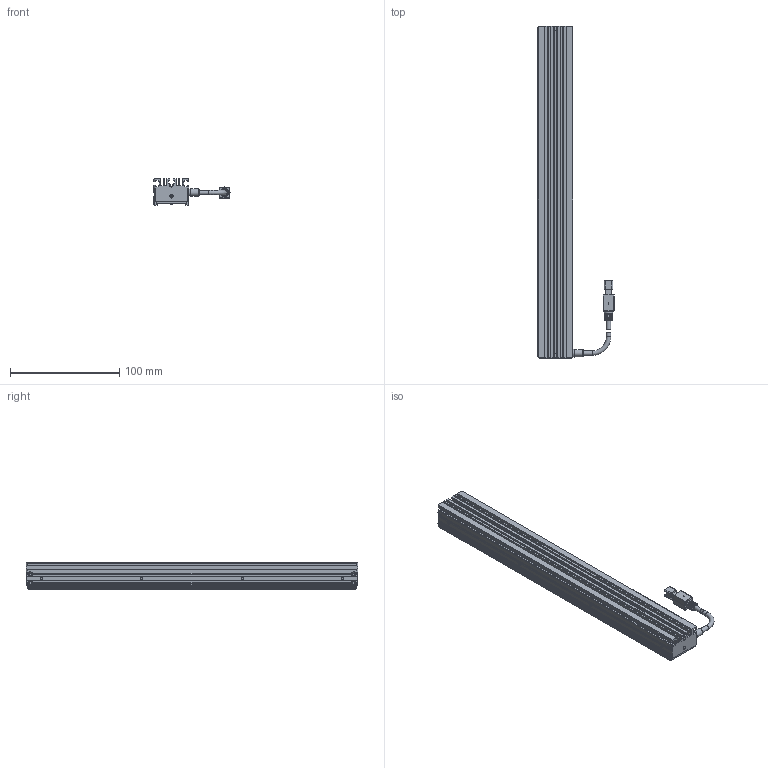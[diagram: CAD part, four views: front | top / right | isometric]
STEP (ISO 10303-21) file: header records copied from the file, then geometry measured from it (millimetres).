
FILE_DESCRIPTION (( 'STEP AP203' ), '1' );
FILE_NAME ('OPT-ULI30432W-UV-V1.0U尨砩芞.STEP', '2024-12-11T03:39:33', ( '' ), ( '' ), 'SwSTEP 2.0', 'SolidWorks 2016', '' );
FILE_SCHEMA (( 'CONFIG_CONTROL_DESIGN' ));
Length unit declared in the file: millimetre
Products named in the file (1): OPT-ULI30432W-UV-V1.0U尨砩芞
Bounding box: 69.6 x 304 x 24 mm (x, y, z)
Volume: 183981.3 mm3; surface area: 77501.7 mm2
Topology: 10 solids, 18 shells, 653 faces, 1665 edges, 1066 vertices
Faces by surface type: plane 449, cylinder 145, cone 30, bspline 21, torus 8
Full cylindrical faces by diameter (mm): 1.1 x2, 1.4 x4, 1.6 x9, 2 x15, 2.4 x7, 2.5 x2, 2.6 x2, 3 x2, 3.5 x1, 4.1 x4, 5.8 x1, 6.5 x1, 7 x1, 7.5 x1
Entity records: 19647 total; most frequent: CARTESIAN_POINT 4464, ORIENTED_EDGE 3082, DIRECTION 3018, EDGE_CURVE 1541, VECTOR 1088, LINE 1088, VERTEX_POINT 1031, AXIS2_PLACEMENT_3D 965
